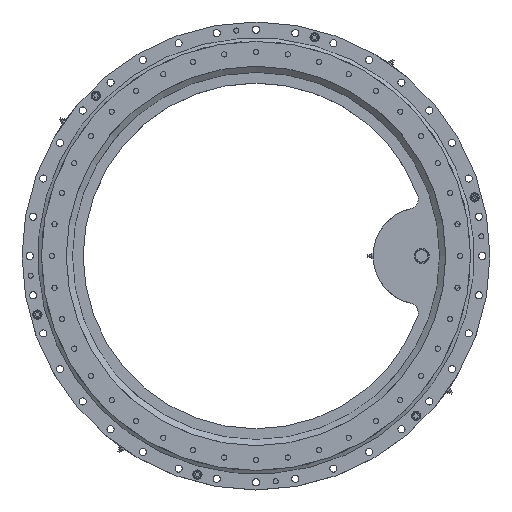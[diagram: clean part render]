
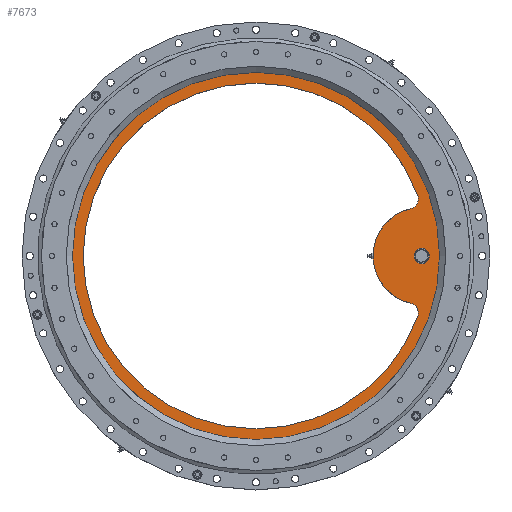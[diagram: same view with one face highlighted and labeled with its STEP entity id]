
A CAD part, top view. The second image highlights one B-rep face of the part: STEP entity #7673.
In plain terms, the highlighted planar face has unit normal (0, 0, 1).
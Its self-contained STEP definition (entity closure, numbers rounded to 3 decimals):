
#61=PLANE('',#8272);
#314=FACE_BOUND('',#1091,.T.);
#315=FACE_BOUND('',#1092,.T.);
#629=FACE_OUTER_BOUND('',#1090,.T.);
#1090=EDGE_LOOP('',(#5565));
#1091=EDGE_LOOP('',(#5566));
#1092=EDGE_LOOP('',(#5567,#5568,#5569,#5570));
#2612=CIRCLE('',#8100,338.);
#2616=CIRCLE('',#8105,95.);
#2728=CIRCLE('',#8266,20.);
#2731=CIRCLE('',#8271,20.);
#2732=CIRCLE('',#8273,360.);
#2733=CIRCLE('',#8274,13.);
#3214=VERTEX_POINT('',#11488);
#3215=VERTEX_POINT('',#11489);
#3222=VERTEX_POINT('',#11504);
#3223=VERTEX_POINT('',#11506);
#3336=VERTEX_POINT('',#12013);
#3337=VERTEX_POINT('',#12015);
#4073=EDGE_CURVE('',#3214,#3215,#2612,.T.);
#4081=EDGE_CURVE('',#3222,#3223,#2616,.T.);
#4242=EDGE_CURVE('',#3214,#3223,#2728,.T.);
#4245=EDGE_CURVE('',#3222,#3215,#2731,.T.);
#4246=EDGE_CURVE('',#3336,#3336,#2732,.T.);
#4247=EDGE_CURVE('',#3337,#3337,#2733,.T.);
#5565=ORIENTED_EDGE('',*,*,#4246,.T.);
#5566=ORIENTED_EDGE('',*,*,#4247,.T.);
#5567=ORIENTED_EDGE('',*,*,#4073,.F.);
#5568=ORIENTED_EDGE('',*,*,#4242,.T.);
#5569=ORIENTED_EDGE('',*,*,#4081,.F.);
#5570=ORIENTED_EDGE('',*,*,#4245,.T.);
#7673=ADVANCED_FACE('',(#629,#314,#315),#61,.T.);
#8100=AXIS2_PLACEMENT_3D('',#11490,#9062,#9063);
#8105=AXIS2_PLACEMENT_3D('',#11507,#9076,#9077);
#8266=AXIS2_PLACEMENT_3D('',#12006,#9445,#9446);
#8271=AXIS2_PLACEMENT_3D('',#12011,#9455,#9456);
#8272=AXIS2_PLACEMENT_3D('',#12012,#9457,#9458);
#8273=AXIS2_PLACEMENT_3D('',#12014,#9459,#9460);
#8274=AXIS2_PLACEMENT_3D('',#12016,#9461,#9462);
#9062=DIRECTION('center_axis',(0.,0.,1.));
#9063=DIRECTION('ref_axis',(1.,0.,0.));
#9076=DIRECTION('center_axis',(0.,0.,-1.));
#9077=DIRECTION('ref_axis',(1.,0.,0.));
#9445=DIRECTION('center_axis',(0.,0.,-1.));
#9446=DIRECTION('ref_axis',(1.,0.,0.));
#9455=DIRECTION('center_axis',(0.,0.,-1.));
#9456=DIRECTION('ref_axis',(1.,0.,0.));
#9457=DIRECTION('center_axis',(0.,0.,1.));
#9458=DIRECTION('ref_axis',(1.,0.,0.));
#9459=DIRECTION('center_axis',(0.,0.,1.));
#9460=DIRECTION('ref_axis',(1.,0.,0.));
#9461=DIRECTION('center_axis',(0.,0.,-1.));
#9462=DIRECTION('ref_axis',(-1.,0.,0.));
#11488=CARTESIAN_POINT('',(341.799,120.657,469.578));
#11489=CARTESIAN_POINT('',(341.799,-117.303,469.578));
#11490=CARTESIAN_POINT('Origin',(25.433,1.677,469.578));
#11504=CARTESIAN_POINT('',(327.663,-90.795,469.578));
#11506=CARTESIAN_POINT('',(327.663,94.149,469.578));
#11507=CARTESIAN_POINT('Origin',(349.433,1.677,469.578));
#12006=CARTESIAN_POINT('Origin',(323.079,113.617,469.578));
#12011=CARTESIAN_POINT('Origin',(323.079,-110.263,469.578));
#12012=CARTESIAN_POINT('Origin',(25.433,1.677,469.578));
#12013=CARTESIAN_POINT('',(-334.567,1.677,469.578));
#12014=CARTESIAN_POINT('Origin',(25.433,1.677,469.578));
#12015=CARTESIAN_POINT('',(362.433,1.677,469.578));
#12016=CARTESIAN_POINT('Origin',(349.433,1.677,469.578));
